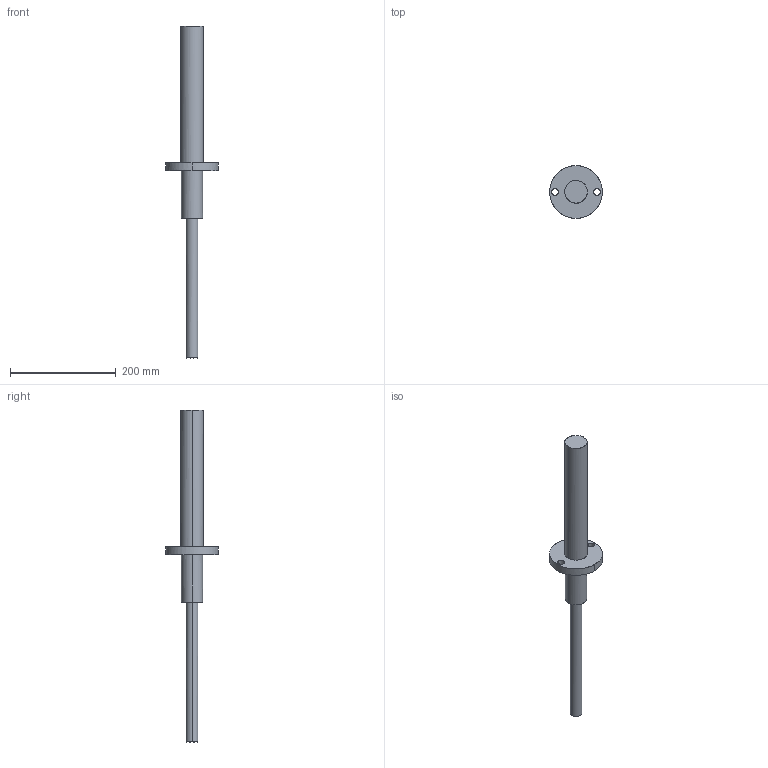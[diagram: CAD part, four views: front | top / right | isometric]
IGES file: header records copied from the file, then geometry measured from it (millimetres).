
Global section: file name: E:\UnigraphicsGraphicData\MISUMI_PRESS-PARTS\IGES\3d_papu250-90_01695_r00.igs; native system: NX V5.0; preprocessor: UGS NX IGES V5.0; author: MISUMI; date: 20110105.162225; units: millimetre
Bounding box: 100 x 100 x 629 mm (x, y, z)
Surface area: 90819.8 mm2 (no closed solid volume)
Topology: 0 solids, 0 shells, 21 faces, 232 edges, 232 vertices
Faces by surface type: bspline 21
